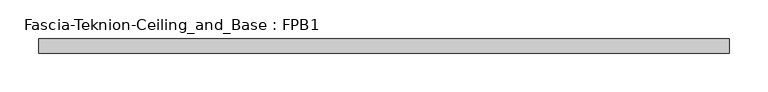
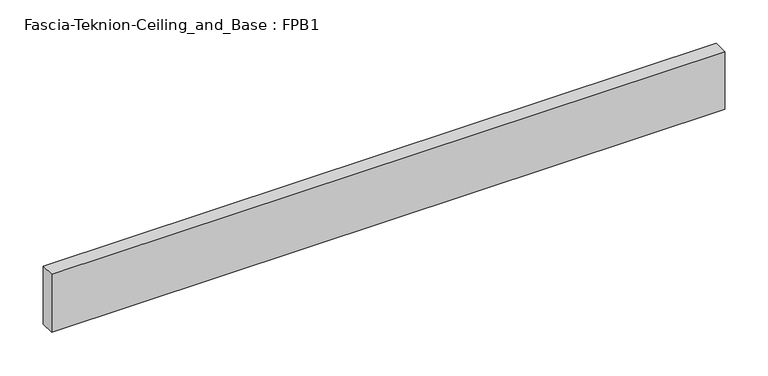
"""IFC4 building model written with IfcOpenShell, lengths in millimetres: proxy geometry, Fascia-Teknion-Ceiling_and_Base : FPB1."""

from ifc_helpers import new_model, si_unit, origin, origin_with_axes, place, context, project, spatial, polyline, outline, extrude, source, transform, mapped, element, save


def fascia_teknion_ceiling_and_base_fpb1_2ed09321(model_context):
    return source(origin(), model_context, "Body", "SweptSolid", [
        extrude(outline(polyline([(447.6253906, 0.0), (447.6253906, -19.05), (-447.6253906, -19.05), (-447.6253906, 0.0), (447.6253906, 0.0)])), origin_with_axes(), (0.0, 0.0, 1.0), 81.28),
    ])


if __name__ == "__main__":
    model = new_model("IFC4")
    model_context = context("Model", 3, world=origin())
    ifc_project = project(units=[si_unit("LENGTHUNIT", "METRE", prefix="MILLI")], contexts=[model_context])
    site = spatial("IfcSite", under=ifc_project)
    building = spatial("IfcBuilding", under=site)
    placement = place(None, origin())
    fascia_teknion_ceiling_and_base_fpb1_shape = fascia_teknion_ceiling_and_base_fpb1_2ed09321(model_context)
    element("IfcBuildingElementProxy", 1, Name="Fascia-Teknion-Ceiling_and_Base : FPB1", ObjectType="Fascia-Teknion-Ceiling_and_Base : FPB1", at=placement, inside=building, context=model_context, shape_type="MappedRepresentation", body=[
        mapped(fascia_teknion_ceiling_and_base_fpb1_shape, transform((0.0, 0.0, 0.0), x_axis=(1.0, 0.0, 0.0), y_axis=(0.0, 1.0, 0.0), z_axis=(0.0, 0.0, 1.0))),
    ])
    save(model, "model.ifc")
